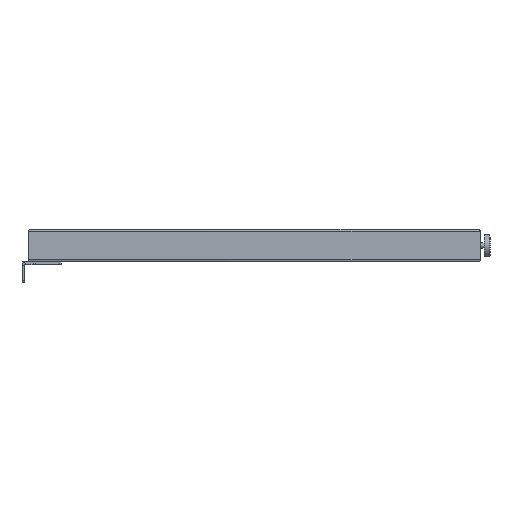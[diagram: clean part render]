
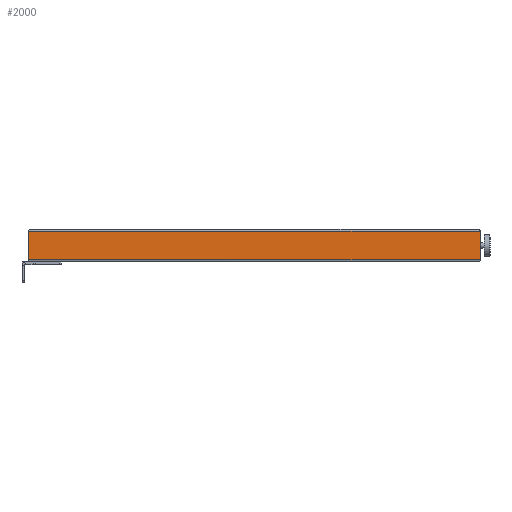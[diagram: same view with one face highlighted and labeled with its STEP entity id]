
A CAD part, left-side view. The second image highlights one B-rep face of the part: STEP entity #2000.
In plain terms, the highlighted planar face has unit normal (-1, 0, 0).
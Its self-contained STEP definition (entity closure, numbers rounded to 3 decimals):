
#319 = CARTESIAN_POINT ( 'NONE',  ( -398., 345., 25. ) ) ;
#476 = CARTESIAN_POINT ( 'NONE',  ( -398., -345., 25. ) ) ;
#716 = VECTOR ( 'NONE', #3711, 1000. ) ;
#725 = AXIS2_PLACEMENT_3D ( 'NONE', #4443, #1548, #2988 ) ;
#814 = LINE ( 'NONE', #476, #716 ) ;
#984 = ORIENTED_EDGE ( 'NONE', *, *, #3470, .T. ) ;
#1337 = DIRECTION ( 'NONE',  ( 0., 1., 0. ) ) ;
#1402 = VERTEX_POINT ( 'NONE', #3618 ) ;
#1432 = CARTESIAN_POINT ( 'NONE',  ( -398., 345., -22. ) ) ;
#1548 = DIRECTION ( 'NONE',  ( 1., 0., 0. ) ) ;
#1671 = CARTESIAN_POINT ( 'NONE',  ( -398., -345., -22. ) ) ;
#1883 = PLANE ( 'NONE',  #725 ) ;
#1906 = FACE_OUTER_BOUND ( 'NONE', #2982, .T. ) ;
#2000 = ADVANCED_FACE ( 'NONE', ( #1906 ), #1883, .F. ) ;
#2160 = EDGE_CURVE ( 'NONE', #1402, #2401, #3870, .T. ) ;
#2176 = VECTOR ( 'NONE', #1337, 1000. ) ;
#2401 = VERTEX_POINT ( 'NONE', #3865 ) ;
#2758 = EDGE_CURVE ( 'NONE', #1402, #4412, #814, .T. ) ;
#2977 = VERTEX_POINT ( 'NONE', #1432 ) ;
#2982 = EDGE_LOOP ( 'NONE', ( #4331, #4538, #3438, #984 ) ) ;
#2988 = DIRECTION ( 'NONE',  ( 0., 0., -1. ) ) ;
#3036 = LINE ( 'NONE', #1671, #3445 ) ;
#3129 = DIRECTION ( 'NONE',  ( 0., 0., -1. ) ) ;
#3141 = VECTOR ( 'NONE', #3129, 1000. ) ;
#3438 = ORIENTED_EDGE ( 'NONE', *, *, #3492, .T. ) ;
#3445 = VECTOR ( 'NONE', #4088, 1000. ) ;
#3470 = EDGE_CURVE ( 'NONE', #2977, #4412, #3036, .T. ) ;
#3492 = EDGE_CURVE ( 'NONE', #2401, #2977, #4227, .T. ) ;
#3618 = CARTESIAN_POINT ( 'NONE',  ( -398., -345., 22. ) ) ;
#3711 = DIRECTION ( 'NONE',  ( 0., 0., -1. ) ) ;
#3865 = CARTESIAN_POINT ( 'NONE',  ( -398., 345., 22. ) ) ;
#3870 = LINE ( 'NONE', #4630, #2176 ) ;
#4088 = DIRECTION ( 'NONE',  ( 0., -1., 0. ) ) ;
#4227 = LINE ( 'NONE', #319, #3141 ) ;
#4251 = CARTESIAN_POINT ( 'NONE',  ( -398., -345., -22. ) ) ;
#4331 = ORIENTED_EDGE ( 'NONE', *, *, #2758, .F. ) ;
#4412 = VERTEX_POINT ( 'NONE', #4251 ) ;
#4443 = CARTESIAN_POINT ( 'NONE',  ( -398., 345., 25. ) ) ;
#4538 = ORIENTED_EDGE ( 'NONE', *, *, #2160, .T. ) ;
#4630 = CARTESIAN_POINT ( 'NONE',  ( -398., 345., 22. ) ) ;
